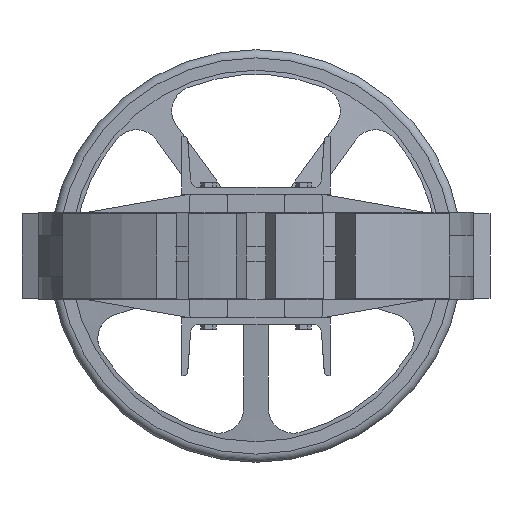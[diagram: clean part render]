
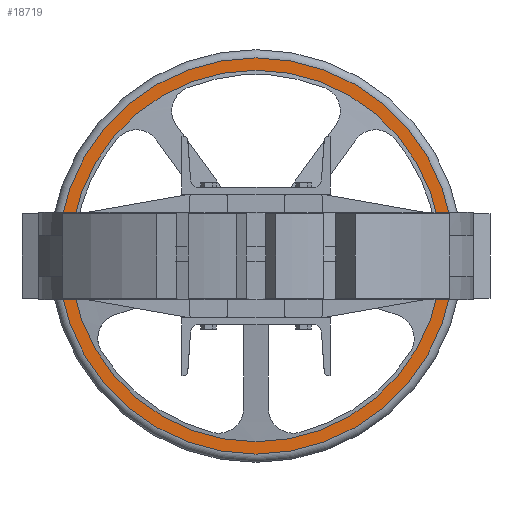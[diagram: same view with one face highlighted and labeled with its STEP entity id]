
A CAD part, front view. The second image highlights one B-rep face of the part: STEP entity #18719.
In plain terms, the highlighted planar face has unit normal (0, -1, 0).
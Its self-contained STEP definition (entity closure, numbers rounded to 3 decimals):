
#6335 = CARTESIAN_POINT ( 'NONE',  ( 225., 1087.25, 0. ) ) ;
#6486 = CARTESIAN_POINT ( 'NONE',  ( -225., 1087.25, 0. ) ) ;
#6487 = DIRECTION ( 'NONE',  ( -1., 0., 0. ) ) ;
#6488 = DIRECTION ( 'NONE',  ( 0., 1., 0. ) ) ;
#6489 = CARTESIAN_POINT ( 'NONE',  ( 0., 1087.25, 0. ) ) ;
#6490 = AXIS2_PLACEMENT_3D ( 'NONE', #6489, #6488, #6487 ) ;
#6491 = CIRCLE ( 'NONE', #6490, 225. ) ;
#7152 = CARTESIAN_POINT ( 'NONE',  ( -240., 1087.25, 0. ) ) ;
#7184 = DIRECTION ( 'NONE',  ( -1., 0., 0. ) ) ;
#7185 = DIRECTION ( 'NONE',  ( 0., 1., 0. ) ) ;
#7186 = CARTESIAN_POINT ( 'NONE',  ( 0., 1087.25, 0. ) ) ;
#7187 = AXIS2_PLACEMENT_3D ( 'NONE', #7186, #7185, #7184 ) ;
#7188 = CIRCLE ( 'NONE', #7187, 240. ) ;
#7280 = DIRECTION ( 'NONE',  ( -1., 0., 0. ) ) ;
#7281 = DIRECTION ( 'NONE',  ( 0., 1., 0. ) ) ;
#7282 = AXIS2_PLACEMENT_3D ( 'NONE', #7286, #7281, #7280 ) ;
#7283 = CIRCLE ( 'NONE', #7282, 225. ) ;
#7286 = CARTESIAN_POINT ( 'NONE',  ( 0., 1087.25, 0. ) ) ;
#7530 = CARTESIAN_POINT ( 'NONE',  ( 240., 1087.25, 0. ) ) ;
#17555 = VERTEX_POINT ( 'NONE', #6335 ) ;
#17618 = EDGE_CURVE ( 'NONE', #17619, #17555, #6491, .T. ) ;
#17619 = VERTEX_POINT ( 'NONE', #6486 ) ;
#17903 = EDGE_CURVE ( 'NONE', #17905, #18042, #7188, .T. ) ;
#17905 = VERTEX_POINT ( 'NONE', #7152 ) ;
#17944 = EDGE_CURVE ( 'NONE', #17555, #17619, #7283, .T. ) ;
#18042 = VERTEX_POINT ( 'NONE', #7530 ) ;
#18714 = EDGE_CURVE ( 'NONE', #18042, #17905, #20465, .T. ) ;
#18719 = ADVANCED_FACE ( 'NONE', ( #20456, #20509 ), #20508, .F. ) ;
#18720 = EDGE_LOOP ( 'NONE', ( #18773, #18774 ) ) ;
#18773 = ORIENTED_EDGE ( 'NONE', *, *, #17903, .F. ) ;
#18774 = ORIENTED_EDGE ( 'NONE', *, *, #18714, .F. ) ;
#18775 = EDGE_LOOP ( 'NONE', ( #18776, #18777 ) ) ;
#18776 = ORIENTED_EDGE ( 'NONE', *, *, #17618, .T. ) ;
#18777 = ORIENTED_EDGE ( 'NONE', *, *, #17944, .T. ) ;
#20456 = FACE_OUTER_BOUND ( 'NONE', #18720, .T. ) ;
#20457 = DIRECTION ( 'NONE',  ( -1., 0., 0. ) ) ;
#20458 = DIRECTION ( 'NONE',  ( 0., 1., 0. ) ) ;
#20459 = CARTESIAN_POINT ( 'NONE',  ( 0., 1087.25, 0. ) ) ;
#20460 = AXIS2_PLACEMENT_3D ( 'NONE', #20459, #20458, #20457 ) ;
#20465 = CIRCLE ( 'NONE', #20460, 240. ) ;
#20504 = DIRECTION ( 'NONE',  ( -1., 0., 0. ) ) ;
#20505 = DIRECTION ( 'NONE',  ( 0., 1., 0. ) ) ;
#20506 = CARTESIAN_POINT ( 'NONE',  ( 240., 1087.25, 0. ) ) ;
#20507 = AXIS2_PLACEMENT_3D ( 'NONE', #20506, #20505, #20504 ) ;
#20508 = PLANE ( 'NONE',  #20507 ) ;
#20509 = FACE_BOUND ( 'NONE', #18775, .T. ) ;
